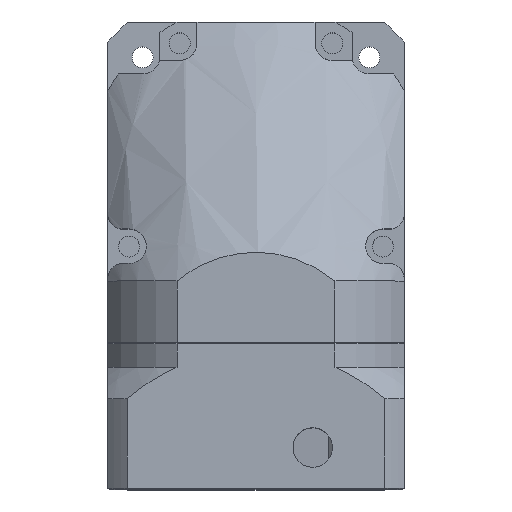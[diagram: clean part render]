
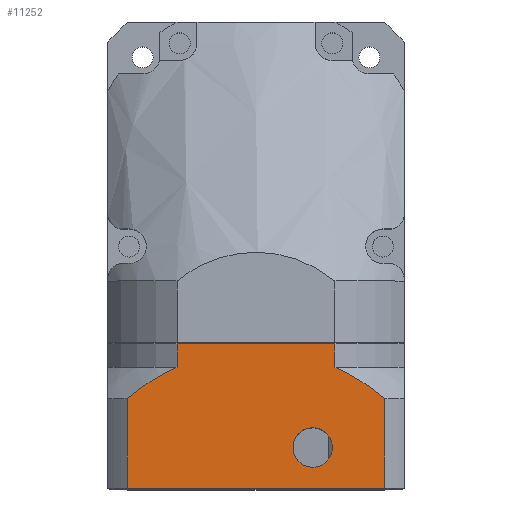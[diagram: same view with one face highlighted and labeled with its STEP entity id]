
A CAD part, top view. The second image highlights one B-rep face of the part: STEP entity #11252.
In plain terms, the highlighted planar face has unit normal (0, 0, 1).
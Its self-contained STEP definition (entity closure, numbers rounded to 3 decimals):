
#50 = CARTESIAN_POINT ( 'NONE',  ( 0., -52.156, 60. ) ) ;
#226 = DIRECTION ( 'NONE',  ( 0., 0., 1. ) ) ;
#251 = VECTOR ( 'NONE', #6563, 1000. ) ;
#275 = EDGE_CURVE ( 'NONE', #6277, #9023, #10534, .T. ) ;
#636 = VECTOR ( 'NONE', #9636, 1000. ) ;
#697 = EDGE_CURVE ( 'NONE', #10822, #7450, #7801, .T. ) ;
#1028 = ORIENTED_EDGE ( 'NONE', *, *, #3200, .T. ) ;
#1101 = EDGE_CURVE ( 'NONE', #10052, #6277, #3435, .T. ) ;
#1566 = AXIS2_PLACEMENT_3D ( 'NONE', #8625, #2248, #9695 ) ;
#1643 = CARTESIAN_POINT ( 'NONE',  ( 0.5, 32., 60. ) ) ;
#1849 = EDGE_CURVE ( 'NONE', #7450, #10052, #4941, .T. ) ;
#2175 = PLANE ( 'NONE',  #4000 ) ;
#2248 = DIRECTION ( 'NONE',  ( 0., 0., 1. ) ) ;
#2289 = LINE ( 'NONE', #12001, #13292 ) ;
#2459 = CARTESIAN_POINT ( 'NONE',  ( 0.5, -32., 60. ) ) ;
#2692 = VECTOR ( 'NONE', #3838, 1000. ) ;
#2781 = CARTESIAN_POINT ( 'NONE',  ( 0., 32., 60. ) ) ;
#2849 = DIRECTION ( 'NONE',  ( 0., 0., 1. ) ) ;
#2975 = CARTESIAN_POINT ( 'NONE',  ( 59., 52.156, 60. ) ) ;
#3185 = AXIS2_PLACEMENT_3D ( 'NONE', #6584, #226, #7661 ) ;
#3200 = EDGE_CURVE ( 'NONE', #10686, #9500, #12977, .T. ) ;
#3435 = LINE ( 'NONE', #50, #636 ) ;
#3838 = DIRECTION ( 'NONE',  ( -1., 0., 0. ) ) ;
#4000 = AXIS2_PLACEMENT_3D ( 'NONE', #9504, #11782, #5391 ) ;
#4602 = AXIS2_PLACEMENT_3D ( 'NONE', #4917, #12356, #5982 ) ;
#4612 = DIRECTION ( 'NONE',  ( 0., 1., 0. ) ) ;
#4704 = CARTESIAN_POINT ( 'NONE',  ( 22.66, -52.156, 60. ) ) ;
#4917 = CARTESIAN_POINT ( 'NONE',  ( 83.321, 0., 60. ) ) ;
#4941 = CIRCLE ( 'NONE', #7351, 80. ) ;
#5391 = DIRECTION ( 'NONE',  ( 1., 0., 0. ) ) ;
#5945 = EDGE_CURVE ( 'NONE', #9023, #10686, #11900, .T. ) ;
#5982 = DIRECTION ( 'NONE',  ( 1., 0., 0. ) ) ;
#6277 = VERTEX_POINT ( 'NONE', #9850 ) ;
#6563 = DIRECTION ( 'NONE',  ( -1., 0., 0. ) ) ;
#6584 = CARTESIAN_POINT ( 'NONE',  ( 42.5, 23., 60. ) ) ;
#6626 = ORIENTED_EDGE ( 'NONE', *, *, #7994, .F. ) ;
#6692 = ORIENTED_EDGE ( 'NONE', *, *, #10272, .T. ) ;
#7317 = EDGE_CURVE ( 'NONE', #12975, #8758, #8053, .T. ) ;
#7351 = AXIS2_PLACEMENT_3D ( 'NONE', #9259, #2849, #10330 ) ;
#7368 = CIRCLE ( 'NONE', #3185, 8. ) ;
#7450 = VERTEX_POINT ( 'NONE', #9837 ) ;
#7510 = EDGE_LOOP ( 'NONE', ( #6626, #11413 ) ) ;
#7661 = DIRECTION ( 'NONE',  ( 1., 0., 0. ) ) ;
#7681 = VECTOR ( 'NONE', #4612, 1000. ) ;
#7801 = LINE ( 'NONE', #11076, #10984 ) ;
#7839 = EDGE_CURVE ( 'NONE', #9500, #9534, #8370, .T. ) ;
#7915 = ORIENTED_EDGE ( 'NONE', *, *, #1101, .T. ) ;
#7994 = EDGE_CURVE ( 'NONE', #8758, #12975, #7368, .T. ) ;
#8053 = CIRCLE ( 'NONE', #1566, 8. ) ;
#8370 = LINE ( 'NONE', #2781, #2692 ) ;
#8625 = CARTESIAN_POINT ( 'NONE',  ( 42.5, 23., 60. ) ) ;
#8710 = CARTESIAN_POINT ( 'NONE',  ( 0., 52.156, 60. ) ) ;
#8758 = VERTEX_POINT ( 'NONE', #11055 ) ;
#8795 = DIRECTION ( 'NONE',  ( 0., -1., 0. ) ) ;
#8841 = CARTESIAN_POINT ( 'NONE',  ( 59., 52.156, 60. ) ) ;
#8913 = ORIENTED_EDGE ( 'NONE', *, *, #7839, .T. ) ;
#9023 = VERTEX_POINT ( 'NONE', #2975 ) ;
#9259 = CARTESIAN_POINT ( 'NONE',  ( 83.321, 0., 60. ) ) ;
#9265 = FACE_BOUND ( 'NONE', #7510, .T. ) ;
#9500 = VERTEX_POINT ( 'NONE', #12221 ) ;
#9504 = CARTESIAN_POINT ( 'NONE',  ( 0., -60., 60. ) ) ;
#9534 = VERTEX_POINT ( 'NONE', #1643 ) ;
#9621 = EDGE_LOOP ( 'NONE', ( #7915, #12955, #11241, #1028, #8913, #6692, #9956, #11112 ) ) ;
#9636 = DIRECTION ( 'NONE',  ( 1., 0., 0. ) ) ;
#9695 = DIRECTION ( 'NONE',  ( 1., 0., 0. ) ) ;
#9837 = CARTESIAN_POINT ( 'NONE',  ( 10., -32., 60. ) ) ;
#9850 = CARTESIAN_POINT ( 'NONE',  ( 59., -52.156, 60. ) ) ;
#9956 = ORIENTED_EDGE ( 'NONE', *, *, #697, .T. ) ;
#10052 = VERTEX_POINT ( 'NONE', #4704 ) ;
#10257 = CARTESIAN_POINT ( 'NONE',  ( 34.5, 23., 60. ) ) ;
#10272 = EDGE_CURVE ( 'NONE', #9534, #10822, #2289, .T. ) ;
#10330 = DIRECTION ( 'NONE',  ( 1., 0., 0. ) ) ;
#10534 = LINE ( 'NONE', #8841, #7681 ) ;
#10686 = VERTEX_POINT ( 'NONE', #12683 ) ;
#10822 = VERTEX_POINT ( 'NONE', #2459 ) ;
#10984 = VECTOR ( 'NONE', #12125, 1000. ) ;
#11055 = CARTESIAN_POINT ( 'NONE',  ( 50.5, 23., 60. ) ) ;
#11076 = CARTESIAN_POINT ( 'NONE',  ( 0., -32., 60. ) ) ;
#11112 = ORIENTED_EDGE ( 'NONE', *, *, #1849, .T. ) ;
#11241 = ORIENTED_EDGE ( 'NONE', *, *, #5945, .T. ) ;
#11252 = ADVANCED_FACE ( 'NONE', ( #9265, #11770 ), #2175, .T. ) ;
#11413 = ORIENTED_EDGE ( 'NONE', *, *, #7317, .F. ) ;
#11770 = FACE_OUTER_BOUND ( 'NONE', #9621, .T. ) ;
#11782 = DIRECTION ( 'NONE',  ( 0., 0., 1. ) ) ;
#11900 = LINE ( 'NONE', #8710, #251 ) ;
#12001 = CARTESIAN_POINT ( 'NONE',  ( 0.5, -32., 60. ) ) ;
#12125 = DIRECTION ( 'NONE',  ( 1., 0., 0. ) ) ;
#12221 = CARTESIAN_POINT ( 'NONE',  ( 10., 32., 60. ) ) ;
#12356 = DIRECTION ( 'NONE',  ( 0., 0., 1. ) ) ;
#12683 = CARTESIAN_POINT ( 'NONE',  ( 22.66, 52.156, 60. ) ) ;
#12955 = ORIENTED_EDGE ( 'NONE', *, *, #275, .T. ) ;
#12975 = VERTEX_POINT ( 'NONE', #10257 ) ;
#12977 = CIRCLE ( 'NONE', #4602, 80. ) ;
#13292 = VECTOR ( 'NONE', #8795, 1000. ) ;
